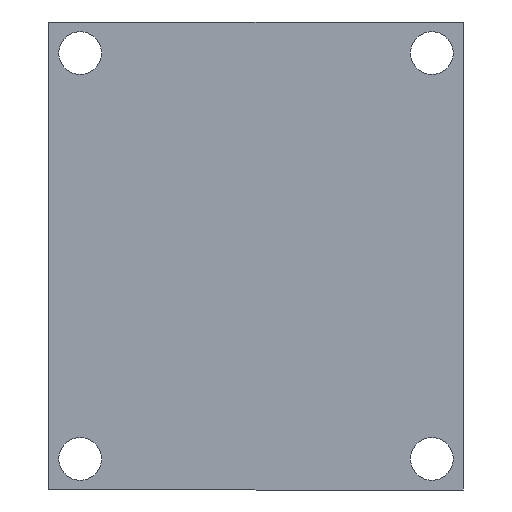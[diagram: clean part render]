
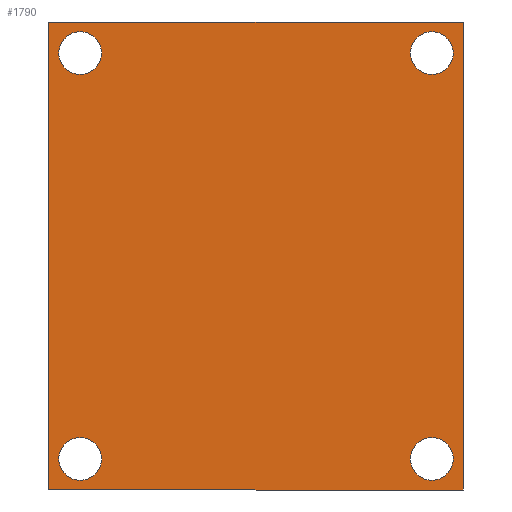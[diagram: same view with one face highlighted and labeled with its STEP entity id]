
A CAD part, front view. The second image highlights one B-rep face of the part: STEP entity #1790.
In plain terms, the highlighted planar face has unit normal (0, -1, 0).
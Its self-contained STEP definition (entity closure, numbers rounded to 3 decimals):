
#64 = AXIS2_PLACEMENT_3D ( 'NONE', #224, #2710, #577 ) ;
#71 = CARTESIAN_POINT ( 'NONE',  ( 13.15, 0., 16.775 ) ) ;
#89 = CARTESIAN_POINT ( 'NONE',  ( 15.5, 0., 17.5 ) ) ;
#110 = CARTESIAN_POINT ( 'NONE',  ( 13.15, 0., -15.175 ) ) ;
#136 = CARTESIAN_POINT ( 'NONE',  ( -13.15, 0., 15.175 ) ) ;
#137 = CIRCLE ( 'NONE', #838, 1.6 ) ;
#185 = FACE_BOUND ( 'NONE', #3159, .T. ) ;
#201 = AXIS2_PLACEMENT_3D ( 'NONE', #3118, #1025, #3410 ) ;
#224 = CARTESIAN_POINT ( 'NONE',  ( 13.15, 0., 15.175 ) ) ;
#225 = ORIENTED_EDGE ( 'NONE', *, *, #2175, .T. ) ;
#272 = AXIS2_PLACEMENT_3D ( 'NONE', #110, #2589, #453 ) ;
#280 = FACE_OUTER_BOUND ( 'NONE', #3228, .T. ) ;
#328 = DIRECTION ( 'NONE',  ( 0., 0., 1. ) ) ;
#383 = PLANE ( 'NONE',  #3448 ) ;
#389 = CARTESIAN_POINT ( 'NONE',  ( -13.15, 0., -15.175 ) ) ;
#400 = DIRECTION ( 'NONE',  ( 1., 0., 0. ) ) ;
#414 = CARTESIAN_POINT ( 'NONE',  ( 15.5, 0., 17.5 ) ) ;
#439 = VERTEX_POINT ( 'NONE', #2519 ) ;
#453 = DIRECTION ( 'NONE',  ( 0., 0., 1. ) ) ;
#478 = DIRECTION ( 'NONE',  ( 0., 0., 1. ) ) ;
#541 = VERTEX_POINT ( 'NONE', #2173 ) ;
#563 = VERTEX_POINT ( 'NONE', #2131 ) ;
#573 = CARTESIAN_POINT ( 'NONE',  ( 15.5, 0., -17.5 ) ) ;
#577 = DIRECTION ( 'NONE',  ( 0., 0., 1. ) ) ;
#669 = CARTESIAN_POINT ( 'NONE',  ( -13.15, 0., 13.575 ) ) ;
#679 = DIRECTION ( 'NONE',  ( -1., 0., 0. ) ) ;
#738 = DIRECTION ( 'NONE',  ( 0., 0., 1. ) ) ;
#746 = AXIS2_PLACEMENT_3D ( 'NONE', #1510, #3784, #1871 ) ;
#798 = LINE ( 'NONE', #89, #2473 ) ;
#815 = ORIENTED_EDGE ( 'NONE', *, *, #2325, .T. ) ;
#838 = AXIS2_PLACEMENT_3D ( 'NONE', #389, #2878, #738 ) ;
#845 = VECTOR ( 'NONE', #328, 1000. ) ;
#891 = ORIENTED_EDGE ( 'NONE', *, *, #2538, .T. ) ;
#903 = CARTESIAN_POINT ( 'NONE',  ( -15.5, 0., 17.5 ) ) ;
#965 = EDGE_CURVE ( 'NONE', #2877, #439, #3878, .T. ) ;
#981 = DIRECTION ( 'NONE',  ( 0., 1., 0. ) ) ;
#992 = EDGE_CURVE ( 'NONE', #3312, #541, #4083, .T. ) ;
#1025 = DIRECTION ( 'NONE',  ( 0., 1., 0. ) ) ;
#1043 = ORIENTED_EDGE ( 'NONE', *, *, #1918, .T. ) ;
#1123 = DIRECTION ( 'NONE',  ( 0., 1., 0. ) ) ;
#1177 = VECTOR ( 'NONE', #679, 1000. ) ;
#1256 = EDGE_CURVE ( 'NONE', #541, #2877, #798, .T. ) ;
#1286 = EDGE_CURVE ( 'NONE', #1784, #1656, #2371, .T. ) ;
#1303 = CIRCLE ( 'NONE', #3671, 1.6 ) ;
#1333 = CARTESIAN_POINT ( 'NONE',  ( -13.15, 0., -13.575 ) ) ;
#1399 = CIRCLE ( 'NONE', #1684, 1.6 ) ;
#1439 = ORIENTED_EDGE ( 'NONE', *, *, #2855, .T. ) ;
#1443 = VERTEX_POINT ( 'NONE', #2177 ) ;
#1444 = VERTEX_POINT ( 'NONE', #71 ) ;
#1456 = CARTESIAN_POINT ( 'NONE',  ( 0., 0., 0. ) ) ;
#1473 = CIRCLE ( 'NONE', #746, 1.6 ) ;
#1510 = CARTESIAN_POINT ( 'NONE',  ( -13.15, 0., 15.175 ) ) ;
#1656 = VERTEX_POINT ( 'NONE', #3019 ) ;
#1664 = ORIENTED_EDGE ( 'NONE', *, *, #2180, .T. ) ;
#1684 = AXIS2_PLACEMENT_3D ( 'NONE', #3089, #981, #3373 ) ;
#1695 = EDGE_CURVE ( 'NONE', #1444, #3629, #1919, .T. ) ;
#1718 = DIRECTION ( 'NONE',  ( 0., 0., -1. ) ) ;
#1784 = VERTEX_POINT ( 'NONE', #4002 ) ;
#1790 = ADVANCED_FACE ( 'NONE', ( #2183, #185, #280, #3670, #2906 ), #383, .F. ) ;
#1803 = LINE ( 'NONE', #2815, #845 ) ;
#1823 = DIRECTION ( 'NONE',  ( 0., 0., 1. ) ) ;
#1871 = DIRECTION ( 'NONE',  ( 0., 0., 1. ) ) ;
#1918 = EDGE_CURVE ( 'NONE', #3658, #563, #137, .T. ) ;
#1919 = CIRCLE ( 'NONE', #64, 1.6 ) ;
#2062 = ORIENTED_EDGE ( 'NONE', *, *, #1286, .T. ) ;
#2131 = CARTESIAN_POINT ( 'NONE',  ( -13.15, 0., -16.775 ) ) ;
#2173 = CARTESIAN_POINT ( 'NONE',  ( 15.5, 0., 17.5 ) ) ;
#2175 = EDGE_CURVE ( 'NONE', #1443, #3825, #1473, .T. ) ;
#2177 = CARTESIAN_POINT ( 'NONE',  ( -13.15, 0., 16.775 ) ) ;
#2180 = EDGE_CURVE ( 'NONE', #1656, #1784, #3290, .T. ) ;
#2183 = FACE_BOUND ( 'NONE', #4148, .T. ) ;
#2325 = EDGE_CURVE ( 'NONE', #3825, #1443, #1303, .T. ) ;
#2371 = CIRCLE ( 'NONE', #201, 1.6 ) ;
#2473 = VECTOR ( 'NONE', #1718, 1000. ) ;
#2519 = CARTESIAN_POINT ( 'NONE',  ( -15.5, 0., -17.5 ) ) ;
#2538 = EDGE_CURVE ( 'NONE', #563, #3658, #2799, .T. ) ;
#2549 = EDGE_LOOP ( 'NONE', ( #815, #225 ) ) ;
#2589 = DIRECTION ( 'NONE',  ( 0., 1., 0. ) ) ;
#2625 = DIRECTION ( 'NONE',  ( 0., 1., 0. ) ) ;
#2688 = ORIENTED_EDGE ( 'NONE', *, *, #2936, .F. ) ;
#2710 = DIRECTION ( 'NONE',  ( 0., 1., 0. ) ) ;
#2799 = CIRCLE ( 'NONE', #3238, 1.6 ) ;
#2815 = CARTESIAN_POINT ( 'NONE',  ( -15.5, 0., 17.5 ) ) ;
#2855 = EDGE_CURVE ( 'NONE', #3629, #1444, #1399, .T. ) ;
#2877 = VERTEX_POINT ( 'NONE', #3095 ) ;
#2878 = DIRECTION ( 'NONE',  ( 0., 1., 0. ) ) ;
#2906 = FACE_BOUND ( 'NONE', #2549, .T. ) ;
#2936 = EDGE_CURVE ( 'NONE', #439, #3312, #1803, .T. ) ;
#3019 = CARTESIAN_POINT ( 'NONE',  ( 13.15, 0., -13.575 ) ) ;
#3030 = ORIENTED_EDGE ( 'NONE', *, *, #1695, .T. ) ;
#3089 = CARTESIAN_POINT ( 'NONE',  ( 13.15, 0., 15.175 ) ) ;
#3095 = CARTESIAN_POINT ( 'NONE',  ( 15.5, 0., -17.5 ) ) ;
#3118 = CARTESIAN_POINT ( 'NONE',  ( 13.15, 0., -15.175 ) ) ;
#3123 = EDGE_LOOP ( 'NONE', ( #2062, #1664 ) ) ;
#3159 = EDGE_LOOP ( 'NONE', ( #891, #1043 ) ) ;
#3194 = CARTESIAN_POINT ( 'NONE',  ( -13.15, 0., -15.175 ) ) ;
#3228 = EDGE_LOOP ( 'NONE', ( #2688, #3479, #3389, #3661 ) ) ;
#3238 = AXIS2_PLACEMENT_3D ( 'NONE', #3194, #1123, #3477 ) ;
#3290 = CIRCLE ( 'NONE', #272, 1.6 ) ;
#3312 = VERTEX_POINT ( 'NONE', #903 ) ;
#3363 = CARTESIAN_POINT ( 'NONE',  ( 13.15, 0., 13.575 ) ) ;
#3373 = DIRECTION ( 'NONE',  ( 0., 0., 1. ) ) ;
#3389 = ORIENTED_EDGE ( 'NONE', *, *, #1256, .F. ) ;
#3410 = DIRECTION ( 'NONE',  ( 0., 0., 1. ) ) ;
#3448 = AXIS2_PLACEMENT_3D ( 'NONE', #1456, #3750, #1823 ) ;
#3477 = DIRECTION ( 'NONE',  ( 0., 0., 1. ) ) ;
#3479 = ORIENTED_EDGE ( 'NONE', *, *, #965, .F. ) ;
#3629 = VERTEX_POINT ( 'NONE', #3363 ) ;
#3658 = VERTEX_POINT ( 'NONE', #1333 ) ;
#3661 = ORIENTED_EDGE ( 'NONE', *, *, #992, .F. ) ;
#3670 = FACE_BOUND ( 'NONE', #3123, .T. ) ;
#3671 = AXIS2_PLACEMENT_3D ( 'NONE', #136, #2625, #478 ) ;
#3750 = DIRECTION ( 'NONE',  ( 0., 1., 0. ) ) ;
#3784 = DIRECTION ( 'NONE',  ( 0., 1., 0. ) ) ;
#3825 = VERTEX_POINT ( 'NONE', #669 ) ;
#3878 = LINE ( 'NONE', #573, #1177 ) ;
#3992 = VECTOR ( 'NONE', #400, 1000. ) ;
#4002 = CARTESIAN_POINT ( 'NONE',  ( 13.15, 0., -16.775 ) ) ;
#4083 = LINE ( 'NONE', #414, #3992 ) ;
#4148 = EDGE_LOOP ( 'NONE', ( #1439, #3030 ) ) ;
